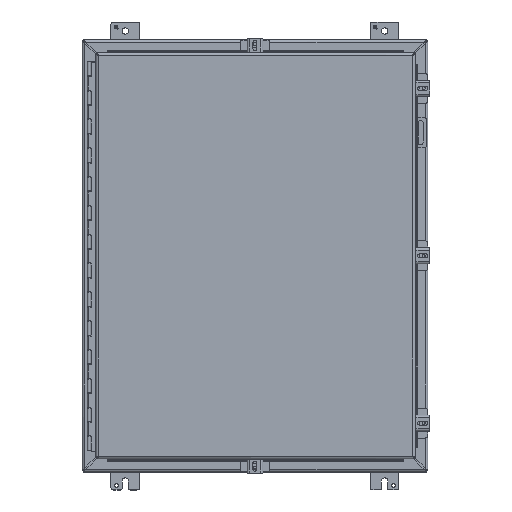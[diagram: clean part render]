
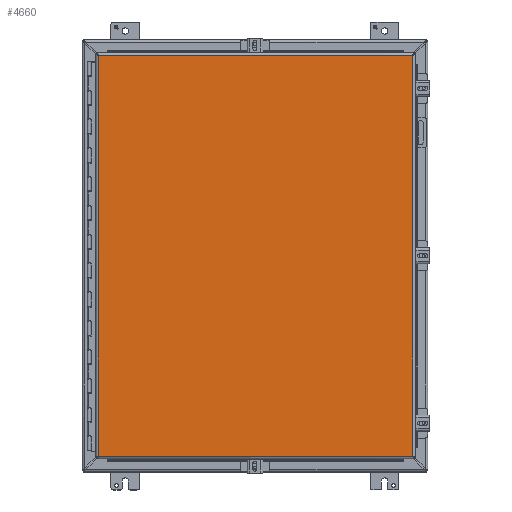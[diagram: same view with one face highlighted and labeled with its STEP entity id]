
A CAD part, top view. The second image highlights one B-rep face of the part: STEP entity #4660.
In plain terms, the highlighted planar face has unit normal (0, 0, 1) as drawn and (0, 0, -1) by its records, which use the part's own axes.
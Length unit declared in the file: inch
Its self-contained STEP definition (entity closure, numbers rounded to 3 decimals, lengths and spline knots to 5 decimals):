
#88 = DIRECTION ( 'NONE',  ( 1., 0., 0. ) ) ;
#89 = VECTOR ( 'NONE', #88, 39.37008 ) ;
#91 = CARTESIAN_POINT ( 'NONE',  ( -11.01893, 13.916, 0. ) ) ;
#4568 = VERTEX_POINT ( 'NONE', #31410 ) ;
#4617 = EDGE_LOOP ( 'NONE', ( #4618, #11324, #11457, #10781 ) ) ;
#4618 = ORIENTED_EDGE ( 'NONE', *, *, #4730, .T. ) ;
#4647 = VERTEX_POINT ( 'NONE', #31402 ) ;
#4660 = ADVANCED_FACE ( 'NONE', ( #31400 ), #31398, .T. ) ;
#4730 = EDGE_CURVE ( 'NONE', #4568, #4647, #31385, .T. ) ;
#8659 = EDGE_CURVE ( 'NONE', #10990, #4568, #31734, .T. ) ;
#10781 = ORIENTED_EDGE ( 'NONE', *, *, #8659, .T. ) ;
#10990 = VERTEX_POINT ( 'NONE', #31983 ) ;
#11324 = ORIENTED_EDGE ( 'NONE', *, *, #11478, .T. ) ;
#11457 = ORIENTED_EDGE ( 'NONE', *, *, #11529, .T. ) ;
#11478 = EDGE_CURVE ( 'NONE', #4647, #11508, #32072, .T. ) ;
#11508 = VERTEX_POINT ( 'NONE', #32055 ) ;
#11529 = EDGE_CURVE ( 'NONE', #11508, #10990, #32054, .T. ) ;
#31379 = DIRECTION ( 'NONE',  ( -1., 0., 0. ) ) ;
#31380 = VECTOR ( 'NONE', #31379, 39.37008 ) ;
#31383 = CARTESIAN_POINT ( 'NONE',  ( 11.01893, -13.916, 0. ) ) ;
#31385 = LINE ( 'NONE', #31383, #31380 ) ;
#31388 = DIRECTION ( 'NONE',  ( -1., 0., 0. ) ) ;
#31389 = DIRECTION ( 'NONE',  ( 0., 0., -1. ) ) ;
#31391 = CARTESIAN_POINT ( 'NONE',  ( -11.095, 14.095, 0. ) ) ;
#31392 = AXIS2_PLACEMENT_3D ( 'NONE', #31391, #31389, #31388 ) ;
#31398 = PLANE ( 'NONE',  #31392 ) ;
#31400 = FACE_OUTER_BOUND ( 'NONE', #4617, .T. ) ;
#31402 = CARTESIAN_POINT ( 'NONE',  ( -10.916, -13.916, 0. ) ) ;
#31410 = CARTESIAN_POINT ( 'NONE',  ( 10.916, -13.916, 0. ) ) ;
#31728 = DIRECTION ( 'NONE',  ( 0., -1., 0. ) ) ;
#31730 = VECTOR ( 'NONE', #31728, 39.37008 ) ;
#31732 = CARTESIAN_POINT ( 'NONE',  ( 10.916, 14.01893, 0. ) ) ;
#31734 = LINE ( 'NONE', #31732, #31730 ) ;
#31983 = CARTESIAN_POINT ( 'NONE',  ( 10.916, 13.916, 0. ) ) ;
#32054 = LINE ( 'NONE', #91, #89 ) ;
#32055 = CARTESIAN_POINT ( 'NONE',  ( -10.916, 13.916, 0. ) ) ;
#32067 = DIRECTION ( 'NONE',  ( 0., 1., 0. ) ) ;
#32068 = VECTOR ( 'NONE', #32067, 39.37008 ) ;
#32071 = CARTESIAN_POINT ( 'NONE',  ( -10.916, -14.01893, 0. ) ) ;
#32072 = LINE ( 'NONE', #32071, #32068 ) ;
